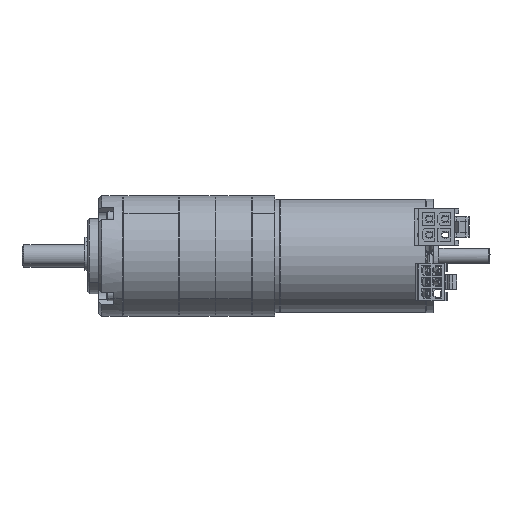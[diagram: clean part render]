
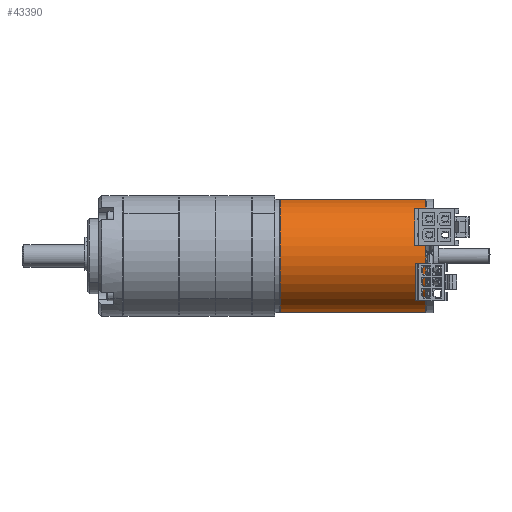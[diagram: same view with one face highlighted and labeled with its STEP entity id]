
A CAD part, top view. The second image highlights one B-rep face of the part: STEP entity #43390.
In plain terms, the highlighted cylindrical face has radius 15 mm (diameter 30 mm), a partial arc.
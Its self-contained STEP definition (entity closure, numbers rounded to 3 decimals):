
#272 = VERTEX_POINT ( 'NONE', #46915 ) ;
#4442 = CARTESIAN_POINT ( 'NONE',  ( 40., 0., 0. ) ) ;
#7744 = CARTESIAN_POINT ( 'NONE',  ( 40., 0., -15. ) ) ;
#11368 = CARTESIAN_POINT ( 'NONE',  ( 60.85, 0., 0. ) ) ;
#12451 = ORIENTED_EDGE ( 'NONE', *, *, #34497, .T. ) ;
#14860 = AXIS2_PLACEMENT_3D ( 'NONE', #11368, #49965, #55575 ) ;
#15813 = EDGE_CURVE ( 'NONE', #272, #42242, #32191, .T. ) ;
#16680 = ORIENTED_EDGE ( 'NONE', *, *, #70494, .T. ) ;
#17697 = DIRECTION ( 'NONE',  ( -1., 0., 0. ) ) ;
#19539 = CARTESIAN_POINT ( 'NONE',  ( 1.409, 0., 15. ) ) ;
#19637 = CIRCLE ( 'NONE', #79773, 15. ) ;
#27969 = EDGE_CURVE ( 'NONE', #49434, #62378, #30341, .T. ) ;
#30341 = LINE ( 'NONE', #67124, #80791 ) ;
#32191 = LINE ( 'NONE', #82203, #38262 ) ;
#34497 = EDGE_CURVE ( 'NONE', #42242, #62378, #19637, .T. ) ;
#37408 = DIRECTION ( 'NONE',  ( 1., 0., 0. ) ) ;
#38262 = VECTOR ( 'NONE', #81660, 1000. ) ;
#42242 = VERTEX_POINT ( 'NONE', #19539 ) ;
#43390 = ADVANCED_FACE ( 'NONE', ( #75226 ), #60033, .T. ) ;
#45211 = DIRECTION ( 'NONE',  ( 0., 0., 1. ) ) ;
#46915 = CARTESIAN_POINT ( 'NONE',  ( 40., 0., 15. ) ) ;
#47901 = DIRECTION ( 'NONE',  ( -1., 0., 0. ) ) ;
#48928 = DIRECTION ( 'NONE',  ( 0., 0., 1. ) ) ;
#49434 = VERTEX_POINT ( 'NONE', #7744 ) ;
#49965 = DIRECTION ( 'NONE',  ( -1., 0., 0. ) ) ;
#50247 = CARTESIAN_POINT ( 'NONE',  ( 1.409, 0., -15. ) ) ;
#53137 = AXIS2_PLACEMENT_3D ( 'NONE', #4442, #17697, #45211 ) ;
#55575 = DIRECTION ( 'NONE',  ( 0., 0., 1. ) ) ;
#57210 = ORIENTED_EDGE ( 'NONE', *, *, #15813, .T. ) ;
#60033 = CYLINDRICAL_SURFACE ( 'NONE', #14860, 15. ) ;
#62378 = VERTEX_POINT ( 'NONE', #50247 ) ;
#64824 = CIRCLE ( 'NONE', #53137, 15. ) ;
#67124 = CARTESIAN_POINT ( 'NONE',  ( 60.85, 0., -15. ) ) ;
#70494 = EDGE_CURVE ( 'NONE', #49434, #272, #64824, .T. ) ;
#70610 = EDGE_LOOP ( 'NONE', ( #73363, #16680, #57210, #12451 ) ) ;
#73363 = ORIENTED_EDGE ( 'NONE', *, *, #27969, .F. ) ;
#75019 = CARTESIAN_POINT ( 'NONE',  ( 1.409, 0., 0. ) ) ;
#75226 = FACE_OUTER_BOUND ( 'NONE', #70610, .T. ) ;
#79773 = AXIS2_PLACEMENT_3D ( 'NONE', #75019, #37408, #48928 ) ;
#80791 = VECTOR ( 'NONE', #47901, 1000. ) ;
#81660 = DIRECTION ( 'NONE',  ( -1., 0., 0. ) ) ;
#82203 = CARTESIAN_POINT ( 'NONE',  ( 60.85, 0., 15. ) ) ;
